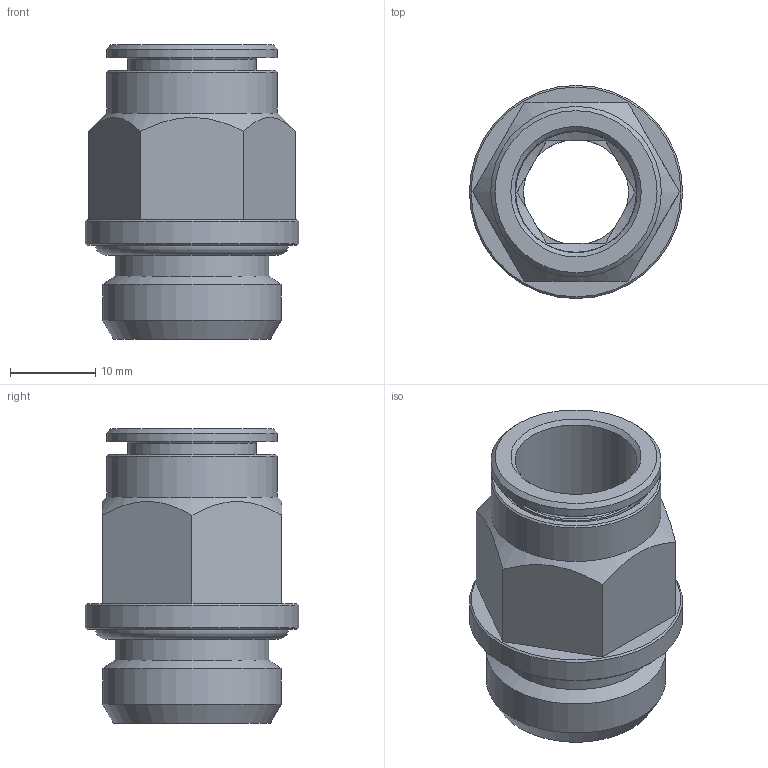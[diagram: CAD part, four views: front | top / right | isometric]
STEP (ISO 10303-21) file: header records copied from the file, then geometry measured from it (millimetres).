
FILE_DESCRIPTION(/* description */ (''),/* implementation_level */ '2;1');
FILE_NAME(/* name */ 'V200117_IPSO01_14_G12_30.08.16',/* time_stamp */ '2016-08-30T09:42:24+02:00',/* author */ (''),/* organization */ (''),/* preprocessor_version */ 'ST-DEVELOPER v16.5',/* originating_system */ 'HiCAD 2016 2101.0 Build 254',/* authorisation */ '');
FILE_SCHEMA (('AUTOMOTIVE_DESIGN { 1 0 10303 214 1 1 1 1 }'));
Length unit declared in the file: millimetre
Products named in the file (4): Root; OR 17.12X2.62; DR14-5; R200117
Assembly tree (3 placements, depth 2):
  Root
    OR 17.12X2.62
    DR14-5
    R200117
Bounding box: 25 x 25 x 34.5 mm (x, y, z)
Volume: 6242.8 mm3; surface area: 6661.2 mm2
Topology: 3 solids, 3 shells, 72 faces, 155 edges, 93 vertices
Faces by surface type: plane 34, cone 17, cylinder 14, torus 7
Full cylindrical faces by diameter (mm): 12.3 x1, 14.15 x1, 14.3 x1, 15.1 x1, 15.2 x1, 16.2 x1, 16.5 x1, 17.3 x1, 18 x1, 18.1 x1, 20 x2, 20.955 x1, 25 x1
Entity records: 2783 total; most frequent: DIRECTION 330, CARTESIAN_POINT 264, PRESENTATION_STYLE_ASSIGNMENT 213, COLOUR_RGB 212, DRAUGHTING_PRE_DEFINED_CURVE_FONT 210, CURVE_STYLE 210, OVER_RIDING_STYLED_ITEM 210, ORIENTED_EDGE 210
